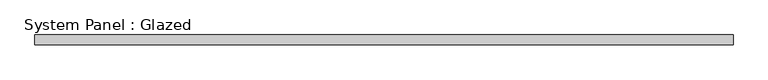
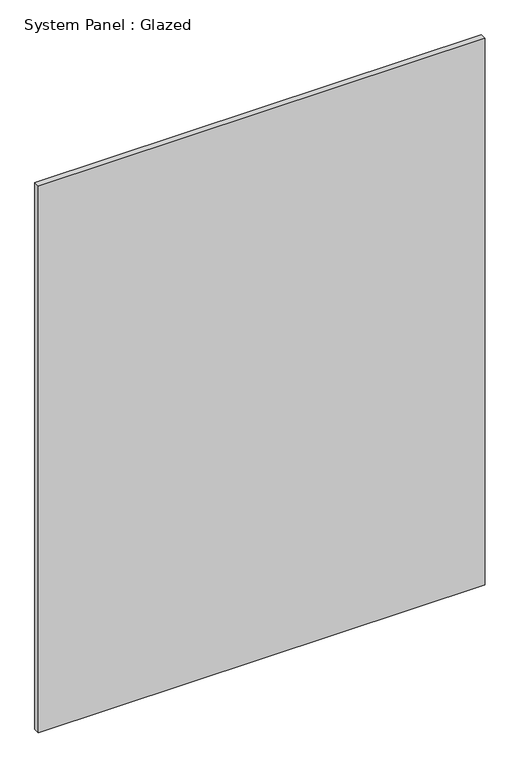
"""IFC4 building model written with IfcOpenShell, lengths in millimetres: plate geometry, System Panel : Glazed."""

from ifc_helpers import new_model, si_unit, origin, origin_with_axes, place, context, project, spatial, polyline, outline, extrude, source, transform, mapped, element, save


def system_panel_glazed_15acf569(model_context):
    return source(origin(), model_context, "Body", "SweptSolid", [
        extrude(outline(polyline([(908.5889212, 24.5), (-908.5889212, 24.5), (-908.5889212, 49.5), (908.5889212, 49.5), (908.5889212, 24.5)])), origin_with_axes(), (0.0, 0.0, 1.0), 2350.0),
    ])


if __name__ == "__main__":
    model = new_model("IFC4")
    model_context = context("Model", 3, world=origin())
    ifc_project = project(units=[si_unit("LENGTHUNIT", "METRE", prefix="MILLI")], contexts=[model_context])
    site = spatial("IfcSite", under=ifc_project)
    building = spatial("IfcBuilding", under=site)
    placement = place(None, origin())
    system_panel_glazed_shape = system_panel_glazed_15acf569(model_context)
    element("IfcPlate", 1, ObjectType="System Panel : Glazed", at=placement, inside=building, context=model_context, shape_type="MappedRepresentation", body=[
        mapped(system_panel_glazed_shape, transform((0.0, 0.0, 0.0), x_axis=(1.0, 0.0, 0.0), y_axis=(0.0, 1.0, 0.0), z_axis=(0.0, 0.0, 1.0))),
    ])
    save(model, "model.ifc")
